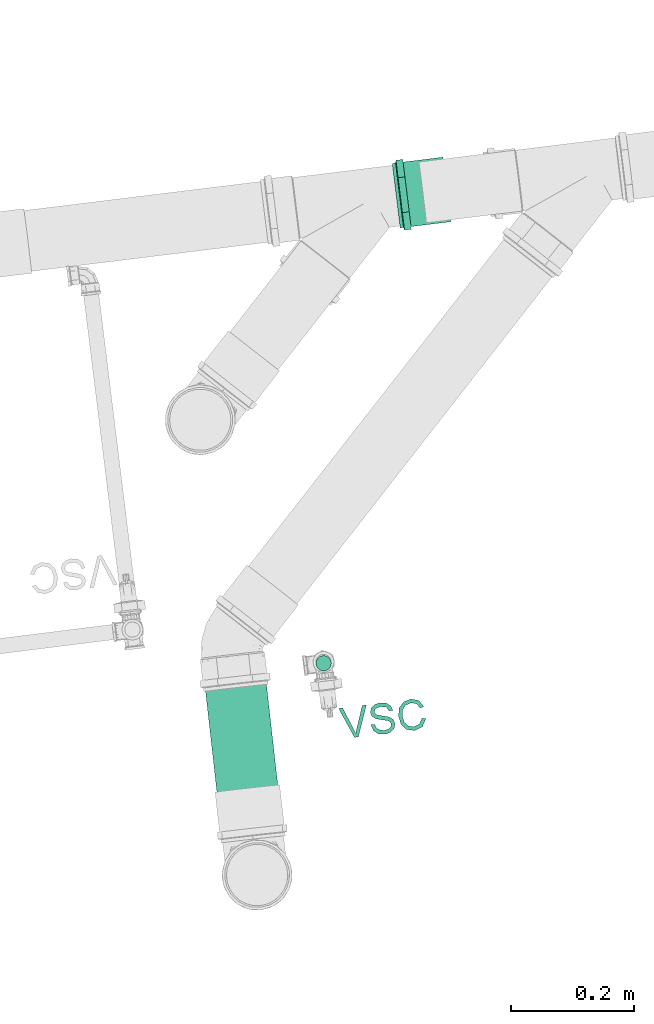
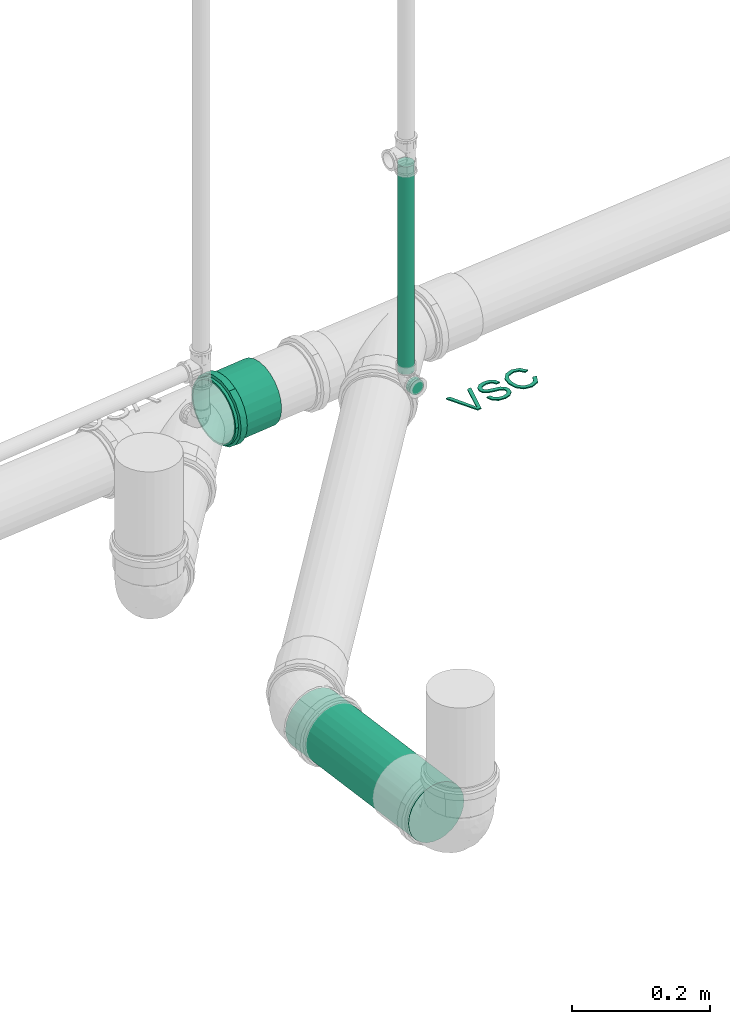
# One storey, part 29 of 97: 2 flow segments, 1 flow fitting, 1 flow terminal.
"""IFC2X3 building model written with IfcOpenShell, lengths in centimetres."""

from ifc_helpers import new_model, entity, si_unit, converted_unit, derived_unit, direction, frame, frame_2d, origin, origin_2d_with_axis, place, context, subcontext, project, spatial, polyline, circle, outline, extrude, faceted_brep, source, transform, mapped, material, material_list, type_object, type_shapes, element, save


model = new_model("IFC2X3")

# Units and contexts
model_context = context("Model", 3, precision=0.001, world=origin(), true_north=direction((6.12303176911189e-17, 1.0)))
body_context = subcontext(model_context, "Body", "Model", "MODEL_VIEW")
ifc_project = project(units=[si_unit("LENGTHUNIT", "METRE", prefix="CENTI"), si_unit("AREAUNIT", "SQUARE_METRE"), si_unit("VOLUMEUNIT", "CUBIC_METRE"), converted_unit("PLANEANGLEUNIT", "DEGREE", entity("IfcRatioMeasure", 0.0174532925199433), si_unit("PLANEANGLEUNIT", "RADIAN"), dimensions=[0, 0, 0, 0, 0, 0, 0]), si_unit("MASSUNIT", "GRAM", prefix="KILO"), derived_unit("MASSDENSITYUNIT", [(si_unit("MASSUNIT", "GRAM", prefix="KILO"), 1), (si_unit("LENGTHUNIT", "METRE"), -3)]), derived_unit("MOMENTOFINERTIAUNIT", [(si_unit("LENGTHUNIT", "METRE"), 4)]), si_unit("TIMEUNIT", "SECOND"), si_unit("FREQUENCYUNIT", "HERTZ"), si_unit("THERMODYNAMICTEMPERATUREUNIT", "DEGREE_CELSIUS"), derived_unit("THERMALTRANSMITTANCEUNIT", [(si_unit("MASSUNIT", "GRAM", prefix="KILO"), 1), (si_unit("THERMODYNAMICTEMPERATUREUNIT", "KELVIN"), -1), (si_unit("TIMEUNIT", "SECOND"), -3)]), derived_unit("VOLUMETRICFLOWRATEUNIT", [(si_unit("LENGTHUNIT", "METRE"), 3), (si_unit("TIMEUNIT", "SECOND"), -1)]), si_unit("ELECTRICCURRENTUNIT", "AMPERE"), si_unit("ELECTRICVOLTAGEUNIT", "VOLT"), si_unit("POWERUNIT", "WATT"), si_unit("FORCEUNIT", "NEWTON", prefix="KILO"), si_unit("ILLUMINANCEUNIT", "LUX"), si_unit("LUMINOUSFLUXUNIT", "LUMEN"), si_unit("LUMINOUSINTENSITYUNIT", "CANDELA"), derived_unit("USERDEFINED", [(si_unit("MASSUNIT", "GRAM", prefix="KILO"), -1), (si_unit("LENGTHUNIT", "METRE"), -2), (si_unit("TIMEUNIT", "SECOND"), 3), (si_unit("LUMINOUSFLUXUNIT", "LUMEN"), 1)]), derived_unit("LINEARVELOCITYUNIT", [(si_unit("LENGTHUNIT", "METRE"), 1), (si_unit("TIMEUNIT", "SECOND"), -1)]), si_unit("PRESSUREUNIT", "PASCAL"), derived_unit("USERDEFINED", [(si_unit("LENGTHUNIT", "METRE"), -2), (si_unit("MASSUNIT", "GRAM", prefix="KILO"), 1), (si_unit("TIMEUNIT", "SECOND"), -2)]), derived_unit("LINEARFORCEUNIT", [(si_unit("MASSUNIT", "GRAM", prefix="KILO"), 1), (si_unit("LENGTHUNIT", "METRE"), 1), (si_unit("TIMEUNIT", "SECOND"), -2), (si_unit("LENGTHUNIT", "METRE"), -1)]), derived_unit("PLANARFORCEUNIT", [(si_unit("MASSUNIT", "GRAM", prefix="KILO"), 1), (si_unit("LENGTHUNIT", "METRE"), 1), (si_unit("TIMEUNIT", "SECOND"), -2), (si_unit("LENGTHUNIT", "METRE"), -2)])], contexts=[model_context])

# Site, building, storey
site_placement = place(None, origin())
site = spatial("IfcSite", under=ifc_project, at=site_placement, Name="Default", CompositionType="ELEMENT")
building_placement = place(site_placement, origin())
building = spatial("IfcBuilding", under=site, at=building_placement, Name="HIDROSSANITÁRIO", CompositionType="ELEMENT")
storey_placement = place(building_placement, frame((0.0, 0.0, -260.0)))
storey = spatial("IfcBuildingStorey", under=building, at=storey_placement, Name="TÉRREO-HID", CompositionType="ELEMENT", Elevation=-260.0)

# Flow segments
pipe_segment_type_1 = type_object("IfcPipeSegmentType", Name="Tipos de tubos:Tubo Marrom - Água Fria - Soldável", PredefinedType="NOTDEFINED")
flow_segment_1_placement = place(storey_placement, origin())
element("IfcFlowSegment", 1, at=flow_segment_1_placement, inside=storey, type_object=pipe_segment_type_1, Name="Tipos de tubos:Tubo Marrom - Água Fria - Soldável", ObjectType="Tipos de tubos:Tubo Marrom - Água Fria - Soldável", context=body_context, shape_type="SweptSolid", body=[
    extrude(circle(Radius=1.25, at=origin_2d_with_axis()), frame((-1478.52027011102, 2914.1004983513, 21.63)), (0.0, 0.0, 1.0), 36.7800000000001),
])
pipe_segment_type_2 = type_object("IfcPipeSegmentType", Name="Tipos de tubos:Tubo - Esgoto - Série Normal", PredefinedType="NOTDEFINED")
flow_segment_2_placement = place(storey_placement, origin())
element("IfcFlowSegment", 2, at=flow_segment_2_placement, inside=storey, type_object=pipe_segment_type_2, Name="Tipos de tubos:Tubo - Esgoto - Série Normal", ObjectType="Tipos de tubos:Tubo - Esgoto - Série Normal", context=body_context, shape_type="SweptSolid", body=[
    extrude(circle(Radius=5.0, at=origin_2d_with_axis()), frame((-1493.40340536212, 2915.24400522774, -35.5239303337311), z_axis=(0.11205890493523, -0.993651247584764, 0.00999999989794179), x_axis=(0.993700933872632, 0.112064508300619, 0.0)), (0.0, 0.0, 1.0), 30.0687393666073),
])

# Flow fitting
ifc_material_1 = material(Name="PVC Branco")
pipe_fitting_type = type_object("IfcPipeFittingType", Name="Luva Simples para Conexão - Serie Normal - Esgoto - MEP - Tigre:Standard", PredefinedType="NOTDEFINED", material=ifc_material_1)
shared_shape_1 = source(origin(), body_context, "Body", "Brep", [
    faceted_brep([(1.77700000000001, 2.8725, -4.9753159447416), (1.77700000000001, 4.06232845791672, -4.06232845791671), (1.77700000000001, 2.65249999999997, -4.59426476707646), (1.77700000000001, 1.37303503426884, -5.12423650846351), (1.77700000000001, 1.48691541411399, -5.5492438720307), (1.77700000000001, 3.75120147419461, -3.75120147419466), (1.77700000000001, 4.9753159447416, -2.8725), (1.77700000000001, 4.59426476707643, -2.65250000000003), (1.77700000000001, 5.1242365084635, -1.37303503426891), (1.77700000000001, 5.5492438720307, -1.48691541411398), (1.77700000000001, 5.305, 0.0), (1.77700000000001, 5.745, 0.0), (1.77700000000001, 5.1242365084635, 1.3730350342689), (1.77700000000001, 5.54924387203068, 1.48691541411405), (1.77700000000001, 4.59426476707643, 2.65250000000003), (1.77700000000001, 4.97531594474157, 2.87250000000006), (1.77700000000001, 3.75120147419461, 3.75120147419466), (1.77700000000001, 4.06232845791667, 4.06232845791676), (1.77700000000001, 2.65249999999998, 4.59426476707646), (1.77700000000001, 2.87249999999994, 4.97531594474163), (1.77700000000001, 1.37303503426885, 5.12423650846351), (1.77700000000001, 1.48691541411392, 5.54924387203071), (1.77700000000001, 0.0, 5.305), (1.77700000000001, 0.0, 5.745), (1.77700000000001, -1.37303503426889, 5.1242365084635), (1.77700000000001, -1.48691541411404, 5.54924387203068), (1.77700000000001, -2.65250000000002, 4.59426476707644), (1.77700000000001, -2.87250000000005, 4.97531594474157), (1.77700000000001, -3.75120147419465, 3.75120147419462), (1.77700000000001, -4.06232845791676, 4.06232845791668), (1.77700000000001, -4.59426476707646, 2.65249999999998), (1.77700000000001, -4.97531594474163, 2.87249999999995), (1.77700000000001, -5.54924387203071, 1.48691541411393), (1.77700000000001, -5.12423650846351, 1.37303503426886), (1.77700000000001, -5.745, 0.0), (1.77700000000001, -5.305, 0.0), (1.77700000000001, -5.54924387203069, -1.486915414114), (1.77700000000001, -5.12423650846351, -1.37303503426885), (1.77700000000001, -4.97531594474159, -2.87250000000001), (1.77700000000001, -4.59426476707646, -2.65249999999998), (1.77700000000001, -4.06232845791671, -4.06232845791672), (1.77700000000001, -3.75120147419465, -3.75120147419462), (1.77700000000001, -2.87249999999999, -4.97531594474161), (1.77700000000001, -2.65250000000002, -4.59426476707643), (1.77700000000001, -1.48691541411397, -5.5492438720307), (1.77700000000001, -1.3730350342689, -5.1242365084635), (1.77700000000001, 0.0, -5.745), (1.77700000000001, 0.0, -5.305), (0.657000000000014, -1.93463887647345, 5.31665771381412), (0.657000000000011, -4.4007619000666, 3.69300957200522), (0.657000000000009, -4.89962626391, 2.82901737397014), (0.657000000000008, -5.39849062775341, 1.96502517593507), (0.657000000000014, -2.87216972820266, 4.97550661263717), (0.657000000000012, -3.63646581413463, 4.3342580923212), (0.657000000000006, -5.5717453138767, 0.982512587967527), (0.657000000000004, -5.745, 0.0), (0.657000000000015, -0.997108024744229, 5.65780881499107), (0.657000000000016, 0.998234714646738, 5.65761013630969), (0.657000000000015, 0.0005633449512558, 5.65770947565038), (0.657000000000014, 3.63732887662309, 4.33353383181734), (0.657000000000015, 1.93569761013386, 5.31627233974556), (0.657000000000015, 2.87316050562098, 4.97493454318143), (0.65700000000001, 5.39888184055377, 1.96395006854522), (0.657000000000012, 4.90018954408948, 2.82804159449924), (0.657000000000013, 4.40149724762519, 3.69213312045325), (0.657000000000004, 5.745, 0.0), (0.656999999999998, 4.40149724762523, -3.6921331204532), (0.657, 4.90018954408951, -2.82804159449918), (0.657000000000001, 5.39888184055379, -1.96395006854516), (0.656999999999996, 2.87316050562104, -4.9749345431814), (0.656999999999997, 3.63732887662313, -4.3335338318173), (0.656999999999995, 1.93569761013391, -5.31627233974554), (0.656999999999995, 0.998234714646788, -5.65761013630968), (0.656999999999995, -0.997108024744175, -5.65780881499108), (0.656999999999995, 0.000563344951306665, -5.65770947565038), (0.656999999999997, -3.6364658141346, -4.33425809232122), (0.656999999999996, -2.87216972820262, -4.9755066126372), (0.656999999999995, -1.9346388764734, -5.31665771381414), (0.657000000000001, -5.39849062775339, -1.96502517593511), (0.657, -4.89962626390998, -2.82901737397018), (0.656999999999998, -4.40076190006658, -3.69300957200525), (0.657000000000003, -5.5717453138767, -0.982512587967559), (8.35200000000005, 2.6525, -4.59426476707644), (8.35200000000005, 3.75120147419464, -3.75120147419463), (8.35200000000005, 2.49999999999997, -4.33012701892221), (8.35200000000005, 1.29409522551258, -4.82962913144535), (8.35200000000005, 1.37303503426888, -5.1242365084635), (8.35200000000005, 3.53553390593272, -3.53553390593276), (8.35200000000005, 4.59426476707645, -2.6525), (8.35200000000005, 4.33012701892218, -2.50000000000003), (8.35200000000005, 4.82962913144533, -1.29409522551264), (8.35200000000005, 5.12423650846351, -1.37303503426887), (8.35200000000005, 5.0, 0.0), (8.35200000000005, 5.305, 0.0), (8.35200000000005, 4.82962913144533, 1.29409522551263), (8.35200000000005, 5.12423650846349, 1.37303503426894), (8.35200000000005, 4.33012701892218, 2.50000000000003), (8.35200000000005, 4.59426476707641, 2.65250000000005), (8.35200000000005, 3.53553390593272, 3.53553390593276), (8.35200000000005, 3.75120147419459, 3.75120147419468), (8.35200000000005, 2.49999999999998, 4.33012701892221), (8.35200000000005, 2.65249999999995, 4.59426476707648), (8.35200000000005, 1.29409522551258, 4.82962913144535), (8.35200000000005, 1.37303503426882, 5.12423650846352), (8.35200000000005, 0.0, 5.0), (8.35200000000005, 0.0, 5.305), (8.35200000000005, -1.29409522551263, 4.82962913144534), (8.35200000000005, -1.37303503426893, 5.12423650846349), (8.35200000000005, -2.50000000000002, 4.33012701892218), (8.35200000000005, -2.65250000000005, 4.59426476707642), (8.35200000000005, -3.53553390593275, 3.53553390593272), (8.35200000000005, -3.75120147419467, 3.7512014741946), (8.35200000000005, -4.3301270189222, 2.49999999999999), (8.35200000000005, -4.59426476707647, 2.65249999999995), (8.35200000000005, -5.12423650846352, 1.37303503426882), (8.35200000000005, -4.82962913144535, 1.29409522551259), (8.35200000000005, -5.305, 0.0), (8.35200000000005, -5.0, 0.0), (8.35200000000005, -5.1242365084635, -1.37303503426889), (8.35200000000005, -4.82962913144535, -1.29409522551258), (8.35200000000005, -4.59426476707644, -2.65250000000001), (8.35200000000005, -4.3301270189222, -2.49999999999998), (8.35200000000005, -3.75120147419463, -3.75120147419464), (8.35200000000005, -3.53553390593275, -3.53553390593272), (8.35200000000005, -2.65249999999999, -4.59426476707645), (8.35200000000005, -2.50000000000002, -4.33012701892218), (8.35200000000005, -1.37303503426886, -5.12423650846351), (8.35200000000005, -1.29409522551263, -4.82962913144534), (8.35200000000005, 0.0, -5.305), (8.35200000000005, 0.0, -5.0), (0.0, 2.49999999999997, -4.33012701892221), (0.0, 3.75120147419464, -3.75120147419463), (0.0, 2.6525, -4.59426476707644), (0.0, 1.29409522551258, -4.82962913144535), (0.0, 3.53553390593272, -3.53553390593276), (0.0, 4.59426476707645, -2.6525), (0.0, 4.33012701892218, -2.50000000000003), (0.0, 4.82962913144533, -1.29409522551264), (0.0, 5.12423650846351, -1.37303503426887), (0.0, 5.0, 0.0), (0.0, 5.305, 0.0), (0.0, 4.82962913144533, 1.29409522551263), (0.0, 5.12423650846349, 1.37303503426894), (0.0, 4.33012701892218, 2.50000000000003), (0.0, 4.59426476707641, 2.65250000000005), (0.0, 3.53553390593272, 3.53553390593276), (0.0, 3.75120147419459, 3.75120147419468), (0.0, 2.49999999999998, 4.33012701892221), (0.0, 2.65249999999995, 4.59426476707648), (0.0, 1.29409522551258, 4.82962913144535), (0.0, 1.37303503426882, 5.12423650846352), (0.0, 0.0, 5.0), (0.0, 0.0, 5.305), (0.0, -1.29409522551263, 4.82962913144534), (0.0, -1.37303503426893, 5.12423650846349), (0.0, -2.50000000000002, 4.33012701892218), (0.0, -2.65250000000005, 4.59426476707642), (0.0, -3.53553390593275, 3.53553390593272), (0.0, -3.75120147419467, 3.7512014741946), (0.0, -4.3301270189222, 2.49999999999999), (0.0, -4.59426476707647, 2.65249999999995), (0.0, -5.12423650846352, 1.37303503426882), (0.0, -4.82962913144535, 1.29409522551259), (0.0, -5.305, 0.0), (0.0, -5.0, 0.0), (0.0, -5.1242365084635, -1.37303503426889), (0.0, -4.82962913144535, -1.29409522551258), (0.0, -4.59426476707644, -2.65250000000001), (0.0, -4.3301270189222, -2.49999999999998), (0.0, -3.75120147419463, -3.75120147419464), (0.0, -3.53553390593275, -3.53553390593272), (0.0, -2.65249999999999, -4.59426476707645), (0.0, -2.50000000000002, -4.33012701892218), (0.0, -1.37303503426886, -5.12423650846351), (0.0, -1.29409522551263, -4.82962913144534), (0.0, 0.0, -5.305), (0.0, 0.0, -5.0), (0.0, 1.37303503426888, -5.1242365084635), (0.537000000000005, -5.305, 0.0), (0.537000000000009, -4.98507989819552, 1.81438788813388), (0.537000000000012, -4.06390540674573, 3.4099410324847), (0.537000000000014, -2.65258010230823, 4.59421851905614), (0.537000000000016, -0.921325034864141, 5.22438371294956), (0.537000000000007, 5.1449924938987, 0.907324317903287), (0.537000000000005, 5.305, 0.0), (0.537000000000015, 2.65233979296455, 4.59435725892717), (0.537000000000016, 0.921051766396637, 5.22443189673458), (0.537000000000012, 4.06372704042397, 3.41015359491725), (0.537000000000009, 4.9849849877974, 1.81464863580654), (0.537000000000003, 5.14499249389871, -0.907324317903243), (0.537000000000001, 4.98498498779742, -1.81464863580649), (0.536999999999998, 4.063727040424, -3.41015359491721), (0.536999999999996, 2.6523397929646, -4.59435725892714), (0.536999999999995, 0.921051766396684, -5.22443189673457), (0.536999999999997, -2.6525801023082, -4.59421851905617), (0.536999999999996, -0.921325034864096, -5.22438371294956), (0.536999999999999, -4.0639054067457, -3.40994103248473), (0.537000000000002, -4.98507989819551, -1.81438788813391), (5.0, -5.0, 0.0), (5.0, 5.0, 0.0)], [[[0, 1, 2]], [[0, 2, 3]], [[3, 4, 0]], [[2, 1, 5]], [[6, 5, 1]], [[5, 6, 7]], [[7, 6, 8]], [[9, 8, 6]], [[9, 10, 8]], [[10, 9, 11]], [[12, 10, 11]], [[11, 13, 12]], [[12, 13, 14]], [[15, 14, 13]], [[14, 15, 16]], [[16, 15, 17]], [[18, 16, 17]], [[17, 19, 18]], [[18, 19, 20]], [[21, 20, 19]], [[20, 21, 22]], [[22, 21, 23]], [[22, 23, 24]], [[24, 23, 25]], [[24, 25, 26]], [[27, 26, 25]], [[27, 28, 26]], [[28, 27, 29]], [[29, 30, 28]], [[31, 30, 29]], [[30, 31, 32]], [[32, 33, 30]], [[34, 33, 32]], [[34, 35, 33]], [[36, 35, 34]], [[36, 37, 35]], [[37, 36, 38]], [[38, 39, 37]], [[39, 38, 40]], [[39, 40, 41]], [[40, 42, 41]], [[41, 42, 43]], [[43, 42, 44]], [[44, 45, 43]], [[46, 45, 44]], [[4, 47, 46]], [[46, 47, 45]], [[4, 3, 47]], [[48, 27, 25]], [[31, 29, 49]], [[31, 49, 50, 51]], [[52, 53, 27]], [[32, 51, 54]], [[54, 55, 34]], [[54, 34, 32]], [[25, 56, 48]], [[49, 29, 53]], [[23, 57, 58, 56]], [[59, 19, 17]], [[27, 53, 29]], [[48, 52, 27]], [[31, 51, 32]], [[57, 23, 21]], [[60, 19, 61]], [[15, 62, 63, 64]], [[19, 60, 21]], [[15, 13, 62]], [[17, 64, 59]], [[57, 21, 60]], [[23, 56, 25]], [[15, 64, 17]], [[13, 65, 62]], [[13, 11, 65]], [[59, 61, 19]], [[65, 11, 9]], [[6, 1, 66]], [[6, 66, 67, 68]], [[69, 70, 0]], [[68, 65, 9]], [[71, 69, 0]], [[71, 0, 4]], [[4, 72, 71]], [[66, 1, 70]], [[46, 73, 74, 72]], [[75, 76, 42]], [[0, 70, 1]], [[75, 42, 40]], [[6, 68, 9]], [[73, 46, 44]], [[77, 42, 76]], [[38, 78, 79, 80]], [[42, 77, 44]], [[38, 36, 78]], [[40, 80, 75]], [[73, 44, 77]], [[46, 72, 4]], [[38, 80, 40]], [[81, 78, 36]], [[55, 81, 34]], [[34, 81, 36]], [[82, 83, 84]], [[82, 84, 85]], [[85, 86, 82]], [[84, 83, 87]], [[88, 87, 83]], [[87, 88, 89]], [[89, 88, 90]], [[91, 90, 88]], [[91, 92, 90]], [[92, 91, 93]], [[94, 92, 93]], [[93, 95, 94]], [[94, 95, 96]], [[97, 96, 95]], [[96, 97, 98]], [[98, 97, 99]], [[100, 98, 99]], [[99, 101, 100]], [[100, 101, 102]], [[103, 102, 101]], [[102, 103, 104]], [[104, 103, 105]], [[104, 105, 106]], [[106, 105, 107]], [[106, 107, 108]], [[109, 108, 107]], [[110, 108, 109]], [[110, 109, 111]], [[111, 112, 110]], [[113, 112, 111]], [[112, 113, 114]], [[114, 115, 112]], [[116, 115, 114]], [[116, 117, 115]], [[118, 117, 116]], [[118, 119, 117]], [[119, 118, 120]], [[120, 121, 119]], [[121, 120, 122]], [[121, 122, 123]], [[122, 124, 123]], [[125, 123, 124]], [[125, 124, 126]], [[126, 127, 125]], [[128, 127, 126]], [[86, 129, 128]], [[128, 129, 127]], [[86, 85, 129]], [[130, 131, 132]], [[133, 130, 132]], [[134, 131, 130]], [[131, 134, 135]], [[136, 135, 134]], [[137, 135, 136]], [[135, 137, 138]], [[137, 139, 138]], [[140, 138, 139]], [[140, 139, 141]], [[141, 142, 140]], [[143, 142, 141]], [[142, 143, 144]], [[145, 144, 143]], [[146, 144, 145]], [[146, 145, 147]], [[147, 148, 146]], [[149, 148, 147]], [[148, 149, 150]], [[151, 150, 149]], [[152, 150, 151]], [[153, 152, 151]], [[154, 152, 153]], [[155, 154, 153]], [[154, 155, 156]], [[156, 155, 157]], [[158, 156, 157]], [[157, 159, 158]], [[158, 159, 160]], [[161, 160, 159]], [[159, 162, 161]], [[161, 162, 163]], [[162, 164, 163]], [[163, 164, 165]], [[164, 166, 165]], [[167, 165, 166]], [[166, 168, 167]], [[169, 167, 168]], [[170, 169, 168]], [[170, 171, 169]], [[171, 170, 172]], [[173, 171, 172]], [[172, 174, 173]], [[173, 174, 175]], [[174, 176, 175]], [[176, 133, 177]], [[175, 176, 177]], [[132, 177, 133]], [[161, 178, 179]], [[158, 180, 181]], [[179, 180, 160]], [[181, 182, 154]], [[179, 160, 161]], [[161, 163, 178]], [[35, 116, 114, 33]], [[183, 184, 140]], [[181, 156, 158]], [[158, 160, 180]], [[181, 154, 156]], [[182, 152, 154]], [[183, 140, 142]], [[185, 150, 186]], [[187, 146, 185]], [[142, 188, 183]], [[187, 188, 144]], [[185, 148, 150]], [[150, 152, 186]], [[187, 144, 146]], [[146, 148, 185]], [[188, 142, 144]], [[186, 152, 182]], [[189, 190, 138]], [[131, 191, 192]], [[190, 191, 135]], [[192, 193, 177]], [[190, 135, 138]], [[184, 189, 140]], [[192, 132, 131]], [[131, 135, 191]], [[192, 177, 132]], [[193, 175, 177]], [[140, 189, 138]], [[194, 173, 195]], [[196, 169, 194]], [[165, 197, 178]], [[196, 197, 167]], [[165, 178, 163]], [[35, 37, 118, 116]], [[194, 171, 173]], [[173, 175, 195]], [[196, 167, 169]], [[169, 171, 194]], [[197, 165, 167]], [[195, 175, 193]], [[115, 117, 198, 164, 162]], [[155, 108, 110, 157]], [[110, 112, 159, 157]], [[112, 115, 162, 159]], [[106, 108, 155, 153]], [[153, 151, 104, 106]], [[102, 104, 151, 149]], [[102, 149, 147, 100]], [[141, 94, 96, 143]], [[96, 98, 145, 143]], [[98, 100, 147, 145]], [[92, 94, 141, 139, 199]], [[199, 139, 137, 90, 92]], [[87, 89, 136, 134]], [[134, 130, 84, 87]], [[89, 90, 137, 136]], [[85, 84, 130, 133]], [[133, 176, 129, 85]], [[127, 129, 176, 174]], [[127, 174, 172, 125]], [[166, 119, 121, 168]], [[121, 123, 170, 168]], [[123, 125, 172, 170]], [[117, 119, 166, 164, 198]], [[81, 178, 197]], [[190, 68, 67]], [[194, 75, 196]], [[193, 72, 74]], [[195, 77, 194]], [[79, 197, 196]], [[81, 55, 178]], [[192, 69, 71]], [[79, 78, 197]], [[194, 77, 76]], [[191, 66, 70]], [[80, 196, 75]], [[68, 190, 189]], [[74, 195, 193]], [[192, 71, 193]], [[190, 67, 191]], [[70, 192, 191]], [[65, 189, 184]], [[195, 73, 77]], [[193, 71, 72]], [[197, 78, 81]], [[191, 67, 66]], [[189, 65, 68]], [[196, 80, 79]], [[70, 69, 192]], [[194, 76, 75]], [[73, 195, 74]], [[65, 183, 62]], [[48, 56, 182]], [[58, 182, 56]], [[54, 51, 179]], [[59, 185, 61]], [[60, 186, 57]], [[53, 52, 181]], [[63, 187, 64]], [[58, 57, 186]], [[187, 63, 188]], [[186, 60, 185]], [[50, 49, 180]], [[185, 59, 187]], [[59, 64, 187]], [[182, 58, 186]], [[50, 179, 51]], [[54, 178, 55]], [[53, 180, 49]], [[63, 62, 188]], [[181, 48, 182]], [[183, 65, 184]], [[179, 50, 180]], [[178, 54, 179]], [[183, 188, 62]], [[180, 53, 181]], [[60, 61, 185]], [[48, 181, 52]], [[30, 33, 114, 113]], [[26, 28, 111, 109]], [[113, 111, 28, 30]], [[107, 24, 26, 109]], [[107, 105, 22, 24]], [[18, 20, 103, 101]], [[99, 16, 18, 101]], [[12, 14, 97, 95]], [[99, 97, 14, 16]], [[10, 12, 95, 93]], [[103, 20, 22, 105]], [[91, 8, 10, 93]], [[88, 7, 8, 91]], [[82, 86, 3, 2]], [[83, 5, 7, 88]], [[2, 5, 83, 82]], [[86, 128, 47, 3]], [[43, 45, 126, 124]], [[122, 41, 43, 124]], [[37, 39, 120, 118]], [[122, 120, 39, 41]], [[126, 45, 47, 128]]]),
])
type_shapes(pipe_fitting_type, [shared_shape_1])
flow_fitting_placement = place(storey_placement, frame((-1466.6791701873, 2990.37751297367, -36.1970881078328), z_axis=(0.0, 0.0, -1.0), x_axis=(0.992511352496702, 0.122152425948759, 0.0)))
element("IfcFlowFitting", 3, at=flow_fitting_placement, inside=storey, type_object=pipe_fitting_type, material=ifc_material_1, Name="Luva Simples para Conexão - Serie Normal - Esgoto - MEP - Tigre:Standard", ObjectType="Luva Simples para Conexão - Serie Normal - Esgoto - MEP - Tigre:Standard", context=body_context, shape_type="MappedRepresentation", body=[
    mapped(shared_shape_1, transform((0.0, 0.0, 0.0), scale=1.0)),
])

# Flow terminal
ifc_material_2 = material(Name=".ID PONTOS DE CONSUMO")
ifc_material_3 = material(Name="<Unnamed>")
ifc_material_list_1 = material_list([ifc_material_2, ifc_material_3])
ifc_material_list_2 = material_list([ifc_material_2, ifc_material_2, ifc_material_2, ifc_material_3])
distribution_element_type = type_object("IfcDistributionElementType", Name="Pontos de Consumo :BACIA SANITARIA CAIXA ACOPLADA", material=ifc_material_list_2)
shared_shape_2 = source(origin(), body_context, "Body", "SweptSolid", [
    extrude(outline(polyline([(-0.291035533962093, -2.60978212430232), (0.357663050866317, -2.60978212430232), (2.27187569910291, 2.41303338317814), (1.59987792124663, 2.41303338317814), (0.258334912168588, -1.20569917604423), (-0.00899267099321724, -2.02117093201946), (-0.279999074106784, -1.20569917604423), (-1.61786326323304, 2.41303338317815), (-2.28986104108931, 2.41303338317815), (-0.291035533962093, -2.60978212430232)])), frame((-3.80140883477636, 8.38581599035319, 0.0), z_axis=(0.0, 0.0, 1.0), x_axis=(-1.0, 0.0, 0.0)), (0.0, 0.0, 1.0), 0.2),
    extrude(outline(polyline([(0.159986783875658, -2.14384430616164), (1.15649137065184, -2.14384430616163), (1.96068557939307, -1.63393256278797), (2.46863484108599, -0.612133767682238), (2.53870698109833, 0.35501055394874), (2.18730732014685, 1.12715089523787), (1.52572011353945, 1.54795570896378), (0.789276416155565, 1.5528298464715), (0.13430777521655, 1.10651277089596), (-0.471111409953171, 0.123091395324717), (-1.0874076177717, -0.768054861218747), (-1.56068636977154, -0.842013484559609), (-1.9855059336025, -0.428866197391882), (-1.94874467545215, 0.494808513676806), (-1.4949111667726, 1.29806637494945), (-0.777489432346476, 1.46486449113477), (-0.606740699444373, 2.06905231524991), (-1.430854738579, 2.04327069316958), (-2.11718460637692, 1.54911010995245), (-2.55960237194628, 0.64195615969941), (-2.6481064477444, -0.300227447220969), (-2.33838066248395, -1.04848451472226), (-1.71373428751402, -1.45120371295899), (-1.06523029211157, -1.45161416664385), (-0.470393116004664, -1.06476156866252), (0.0951992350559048, -0.201975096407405), (0.574519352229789, 0.612557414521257), (0.964937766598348, 0.945679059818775), (1.37031208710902, 0.9394324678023), (1.73780922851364, 0.690941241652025), (1.92586114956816, 0.197524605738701), (1.85777714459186, -0.464986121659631), (1.50727535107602, -1.14835302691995), (0.990539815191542, -1.51586299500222), (0.330735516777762, -1.5396564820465), (0.159986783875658, -2.14384430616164)])), frame((-8.44107816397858, 8.53201502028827, 0.0), z_axis=(0.0, 0.0, 1.0), x_axis=(-0.271957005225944, 0.9623094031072, 0.0)), (0.0, 0.0, 1.0), 0.2),
    extrude(outline(polyline([(-0.163864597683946, -1.7964904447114), (-0.337097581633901, -2.4213021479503), (1.13156474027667, -2.40853999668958), (2.16562908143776, -1.48721709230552), (2.53219172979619, -0.190439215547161), (2.08718308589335, 0.950570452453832), (1.05509329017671, 1.8489065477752), (-0.275927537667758, 2.27270776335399), (-1.46466906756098, 1.98187536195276), (-2.32904298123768, 1.08731397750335), (-2.61799066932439, -0.197577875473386), (-2.01807585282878, -1.36204183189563), (-1.57497165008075, -0.892746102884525), (-1.98665363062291, -0.0610798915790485), (-1.77280525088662, 0.795082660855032), (-1.04969465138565, 1.51204662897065), (-0.147902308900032, 1.63280778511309), (0.740549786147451, 1.30552643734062), (1.58306630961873, 0.601352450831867), (1.88727594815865, -0.254715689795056), (1.65286235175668, -1.11954933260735), (0.903279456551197, -1.7964904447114), (-0.163864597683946, -1.7964904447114)])), frame((-13.1807089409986, 8.45514997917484, 0.0), z_axis=(0.0, 0.0, -1.0), x_axis=(0.499291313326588, 0.866434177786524, 0.0)), (0.0, 0.0, -1.0), 0.2),
    extrude(circle(Radius=1.25, at=frame_2d((-6.58881963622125e-17, -2.01943071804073e-15), x_axis=(1.0, 0.0))), frame((0.0, 0.0, 0.0), z_axis=(0.0, 1.0, 0.0), x_axis=(1.0, 0.0, 0.0)), (0.0, 0.0, 1.0), 1.0),
])
type_shapes(distribution_element_type, [shared_shape_2])
flow_terminal_placement = place(storey_placement, frame((-1478.32116165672, 2912.48270484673, 20.0), z_axis=(0.0, 0.0, 1.0), x_axis=(-0.992511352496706, -0.122152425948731, 0.0)))
element("IfcFlowTerminal", 4, at=flow_terminal_placement, inside=storey, type_object=distribution_element_type, material=ifc_material_list_1, Name="Pontos de Consumo :BACIA SANITARIA CAIXA ACOPLADA", ObjectType="Pontos de Consumo :BACIA SANITARIA CAIXA ACOPLADA", context=body_context, shape_type="MappedRepresentation", body=[
    mapped(shared_shape_2, transform((0.0, 0.0, 0.0), scale=1.0)),
])

save(model, "model.ifc")
